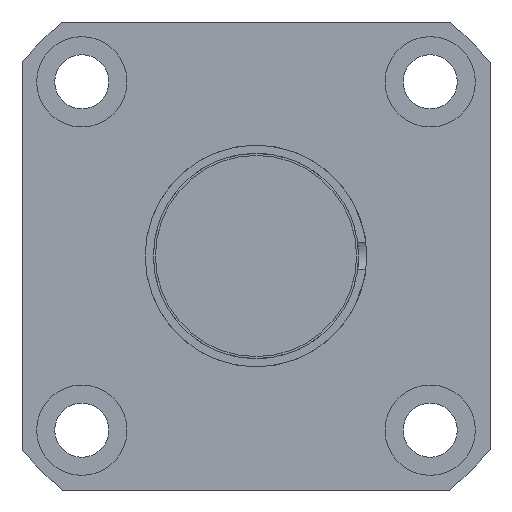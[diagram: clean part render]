
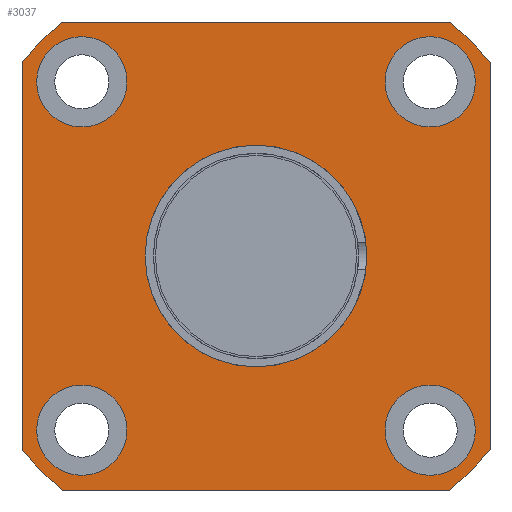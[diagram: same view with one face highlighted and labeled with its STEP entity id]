
A CAD part, left-side view. The second image highlights one B-rep face of the part: STEP entity #3037.
In plain terms, the highlighted planar face has unit normal (-1, 0, 0).
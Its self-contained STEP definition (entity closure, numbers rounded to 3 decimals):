
#510=CARTESIAN_POINT('',(276.947,-28.5,23.596));
#511=VERTEX_POINT('',#510);
#518=CARTESIAN_POINT('',(276.947,-28.5,-23.596));
#519=VERTEX_POINT('',#518);
#520=CARTESIAN_POINT('',(276.947,-28.5,23.596));
#521=DIRECTION('',(0.0,0.0,-1.0));
#522=VECTOR('',#521,47.191);
#523=LINE('',#520,#522);
#524=EDGE_CURVE('',#511,#519,#523,.T.);
#553=CARTESIAN_POINT('',(276.947,13.5,0.0));
#554=VERTEX_POINT('',#553);
#555=CARTESIAN_POINT('',(276.947,0.,0.0));
#556=DIRECTION('',(1.0,0.0,0.0));
#557=DIRECTION('',(0.0,1.0,0.0));
#558=AXIS2_PLACEMENT_3D('',#555,#556,#557);
#559=CIRCLE('',#558,13.5);
#560=EDGE_CURVE('',#554,#554,#559,.T.);
#691=CARTESIAN_POINT('',(276.947,26.713,-21.213));
#692=VERTEX_POINT('',#691);
#693=CARTESIAN_POINT('',(276.947,21.213,-21.213));
#694=DIRECTION('',(1.0,0.0,0.0));
#695=DIRECTION('',(0.0,1.0,0.0));
#696=AXIS2_PLACEMENT_3D('',#693,#694,#695);
#697=CIRCLE('',#696,5.5);
#698=EDGE_CURVE('',#692,#692,#697,.T.);
#759=CARTESIAN_POINT('',(276.947,-15.713,21.213));
#760=VERTEX_POINT('',#759);
#761=CARTESIAN_POINT('',(276.947,-21.213,21.213));
#762=DIRECTION('',(1.0,0.0,0.0));
#763=DIRECTION('',(0.0,1.0,0.0));
#764=AXIS2_PLACEMENT_3D('',#761,#762,#763);
#765=CIRCLE('',#764,5.5);
#766=EDGE_CURVE('',#760,#760,#765,.T.);
#827=CARTESIAN_POINT('',(276.947,26.713,21.213));
#828=VERTEX_POINT('',#827);
#829=CARTESIAN_POINT('',(276.947,21.213,21.213));
#830=DIRECTION('',(1.0,0.0,0.0));
#831=DIRECTION('',(0.0,1.0,0.0));
#832=AXIS2_PLACEMENT_3D('',#829,#830,#831);
#833=CIRCLE('',#832,5.5);
#834=EDGE_CURVE('',#828,#828,#833,.T.);
#895=CARTESIAN_POINT('',(276.947,-15.713,-21.213));
#896=VERTEX_POINT('',#895);
#897=CARTESIAN_POINT('',(276.947,-21.213,-21.213));
#898=DIRECTION('',(1.0,0.0,0.0));
#899=DIRECTION('',(0.0,1.0,0.0));
#900=AXIS2_PLACEMENT_3D('',#897,#898,#899);
#901=CIRCLE('',#900,5.5);
#902=EDGE_CURVE('',#896,#896,#901,.T.);
#2799=CARTESIAN_POINT('',(276.947,-23.596,-28.5));
#2800=VERTEX_POINT('',#2799);
#2801=CARTESIAN_POINT('',(276.947,0.,0.0));
#2802=DIRECTION('',(1.0,0.0,0.0));
#2803=DIRECTION('',(0.0,1.0,0.0));
#2804=AXIS2_PLACEMENT_3D('',#2801,#2802,#2803);
#2805=CIRCLE('',#2804,37.0);
#2806=EDGE_CURVE('',#519,#2800,#2805,.T.);
#2823=CARTESIAN_POINT('',(276.947,-23.596,28.5));
#2824=VERTEX_POINT('',#2823);
#2831=CARTESIAN_POINT('',(276.947,0.,0.0));
#2832=DIRECTION('',(1.0,0.0,0.0));
#2833=DIRECTION('',(0.0,1.0,0.0));
#2834=AXIS2_PLACEMENT_3D('',#2831,#2832,#2833);
#2835=CIRCLE('',#2834,37.0);
#2836=EDGE_CURVE('',#2824,#511,#2835,.T.);
#2848=CARTESIAN_POINT('',(276.947,23.596,28.5));
#2849=VERTEX_POINT('',#2848);
#2856=CARTESIAN_POINT('',(276.947,23.596,28.5));
#2857=DIRECTION('',(0.0,-1.0,0.0));
#2858=VECTOR('',#2857,47.191);
#2859=LINE('',#2856,#2858);
#2860=EDGE_CURVE('',#2849,#2824,#2859,.T.);
#2872=CARTESIAN_POINT('',(276.947,28.5,23.596));
#2873=VERTEX_POINT('',#2872);
#2880=CARTESIAN_POINT('',(276.947,0.,0.0));
#2881=DIRECTION('',(1.0,0.0,0.0));
#2882=DIRECTION('',(0.0,1.0,0.0));
#2883=AXIS2_PLACEMENT_3D('',#2880,#2881,#2882);
#2884=CIRCLE('',#2883,37.0);
#2885=EDGE_CURVE('',#2873,#2849,#2884,.T.);
#2897=CARTESIAN_POINT('',(276.947,28.5,-23.596));
#2898=VERTEX_POINT('',#2897);
#2905=CARTESIAN_POINT('',(276.947,28.5,-23.596));
#2906=DIRECTION('',(0.0,0.0,1.0));
#2907=VECTOR('',#2906,47.191);
#2908=LINE('',#2905,#2907);
#2909=EDGE_CURVE('',#2898,#2873,#2908,.T.);
#2921=CARTESIAN_POINT('',(276.947,23.596,-28.5));
#2922=VERTEX_POINT('',#2921);
#2929=CARTESIAN_POINT('',(276.947,0.,0.0));
#2930=DIRECTION('',(1.0,0.0,0.0));
#2931=DIRECTION('',(0.0,1.0,0.0));
#2932=AXIS2_PLACEMENT_3D('',#2929,#2930,#2931);
#2933=CIRCLE('',#2932,37.0);
#2934=EDGE_CURVE('',#2922,#2898,#2933,.T.);
#2947=CARTESIAN_POINT('',(276.947,-23.596,-28.5));
#2948=DIRECTION('',(0.0,1.0,0.0));
#2949=VECTOR('',#2948,47.191);
#2950=LINE('',#2947,#2949);
#2951=EDGE_CURVE('',#2800,#2922,#2950,.T.);
#3007=CARTESIAN_POINT('',(276.947,18.5,0.0));
#3008=DIRECTION('',(-1.0,0.0,0.0));
#3009=DIRECTION('',(0.0,0.0,1.0));
#3010=AXIS2_PLACEMENT_3D('',#3007,#3008,#3009);
#3011=PLANE('',#3010);
#3012=ORIENTED_EDGE('',*,*,#2860,.F.);
#3013=ORIENTED_EDGE('',*,*,#2885,.F.);
#3014=ORIENTED_EDGE('',*,*,#2909,.F.);
#3015=ORIENTED_EDGE('',*,*,#2934,.F.);
#3016=ORIENTED_EDGE('',*,*,#2951,.F.);
#3017=ORIENTED_EDGE('',*,*,#2806,.F.);
#3018=ORIENTED_EDGE('',*,*,#524,.F.);
#3019=ORIENTED_EDGE('',*,*,#2836,.F.);
#3020=EDGE_LOOP('',(#3012,#3013,#3014,#3015,#3016,#3017,#3018,#3019));
#3021=FACE_OUTER_BOUND('',#3020,.T.);
#3022=ORIENTED_EDGE('',*,*,#698,.T.);
#3023=EDGE_LOOP('',(#3022));
#3024=FACE_BOUND('',#3023,.T.);
#3025=ORIENTED_EDGE('',*,*,#766,.T.);
#3026=EDGE_LOOP('',(#3025));
#3027=FACE_BOUND('',#3026,.T.);
#3028=ORIENTED_EDGE('',*,*,#834,.T.);
#3029=EDGE_LOOP('',(#3028));
#3030=FACE_BOUND('',#3029,.T.);
#3031=ORIENTED_EDGE('',*,*,#902,.T.);
#3032=EDGE_LOOP('',(#3031));
#3033=FACE_BOUND('',#3032,.T.);
#3034=ORIENTED_EDGE('',*,*,#560,.T.);
#3035=EDGE_LOOP('',(#3034));
#3036=FACE_BOUND('',#3035,.T.);
#3037=ADVANCED_FACE('',(#3021,#3024,#3027,#3030,#3033,#3036),#3011,.T.);
